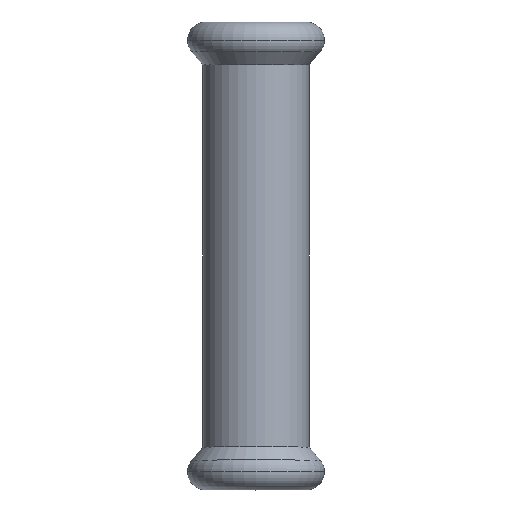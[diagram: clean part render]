
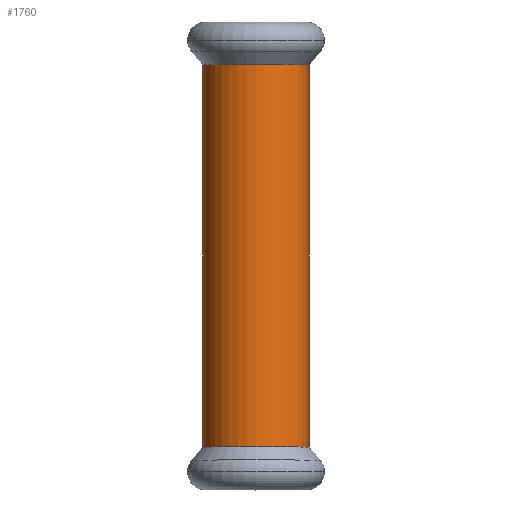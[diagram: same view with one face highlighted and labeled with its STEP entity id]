
A CAD part, top view. The second image highlights one B-rep face of the part: STEP entity #1760.
In plain terms, the highlighted cylindrical face has radius 7.625 mm (diameter 15.25 mm), a partial arc.
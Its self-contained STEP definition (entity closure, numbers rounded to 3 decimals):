
#1120=CARTESIAN_POINT('',(-105.696,50.101,
0.));
#1130=VERTEX_POINT('',#1120);
#1310=CARTESIAN_POINT('',(-90.446,50.101,0.));
#1320=VERTEX_POINT('',#1310);
#1350=CARTESIAN_POINT('',(-98.071,50.101,0.));
#1360=DIRECTION('',(0.,1.,0.));
#1370=DIRECTION('',(1.,0.,0.));
#1380=AXIS2_PLACEMENT_3D('',#1350,#1360,#1370);
#1390=CIRCLE('',#1380,7.625);
#1400=EDGE_CURVE('',#1130,#1320,#1390,.T.);
#1450=CARTESIAN_POINT('',(-98.071,44.368,0.));
#1460=DIRECTION('',(0.,1.,0.));
#1470=DIRECTION('',(1.,0.,0.));
#1480=AXIS2_PLACEMENT_3D('',#1450,#1460,#1470);
#1490=CYLINDRICAL_SURFACE('',#1480,7.625);
#1500=CARTESIAN_POINT('',(-105.696,44.368,
0.));
#1510=DIRECTION('',(0.,1.,0.));
#1520=VECTOR('',#1510,1.);
#1530=LINE('',#1500,#1520);
#1540=CARTESIAN_POINT('',(-105.696,-4.622,
0.));
#1550=VERTEX_POINT('',#1540);
#1560=EDGE_CURVE('',#1550,#1130,#1530,.T.);
#1570=ORIENTED_EDGE('',*,*,#1560,.F.);
#1580=ORIENTED_EDGE('',*,*,#1400,.F.);
#1590=CARTESIAN_POINT('',(-90.446,44.368,0.));
#1600=DIRECTION('',(0.,1.,0.));
#1610=VECTOR('',#1600,1.);
#1620=LINE('',#1590,#1610);
#1630=CARTESIAN_POINT('',(-90.446,-4.622,0.));
#1640=VERTEX_POINT('',#1630);
#1650=EDGE_CURVE('',#1640,#1320,#1620,.T.);
#1660=ORIENTED_EDGE('',*,*,#1650,.T.);
#1670=CARTESIAN_POINT('',(-98.071,-4.622,0.));
#1680=DIRECTION('',(0.,-1.,0.));
#1690=DIRECTION('',(-1.,0.,0.));
#1700=AXIS2_PLACEMENT_3D('',#1670,#1680,#1690);
#1710=CIRCLE('',#1700,7.625);
#1720=EDGE_CURVE('',#1640,#1550,#1710,.T.);
#1730=ORIENTED_EDGE('',*,*,#1720,.F.);
#1740=EDGE_LOOP('',(#1730,#1660,#1580,#1570));
#1750=FACE_OUTER_BOUND('',#1740,.T.);
#1760=ADVANCED_FACE('',(#1750),#1490,.T.);
